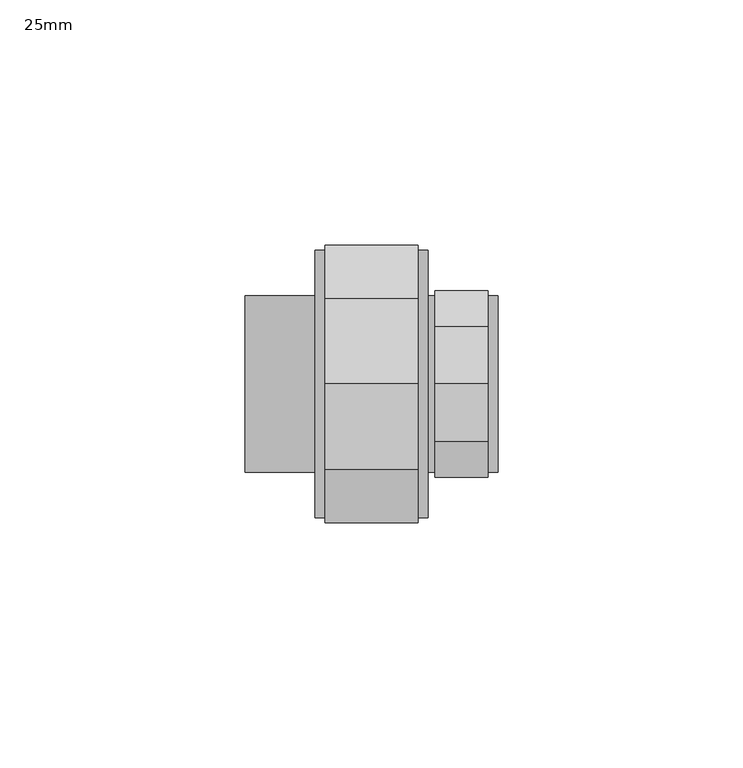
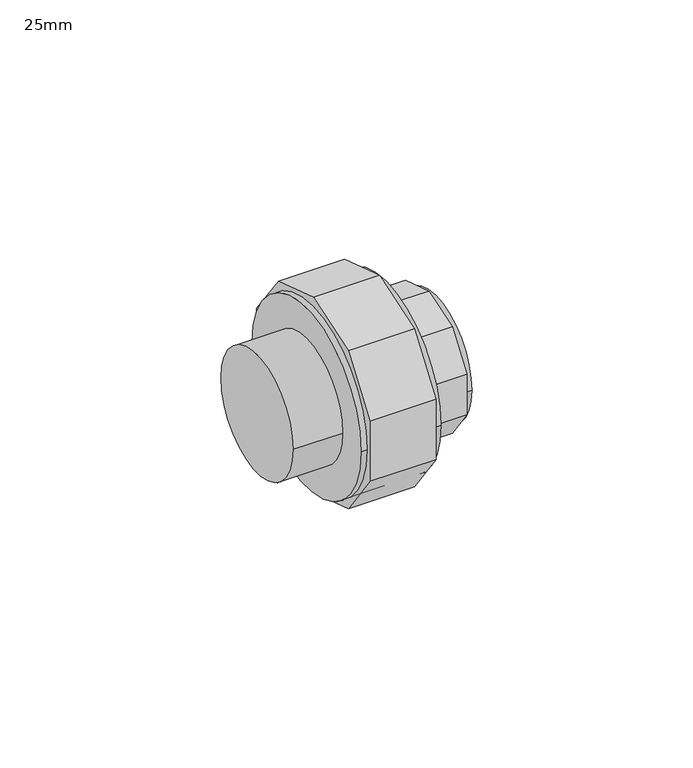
"""IFC4 building model written with IfcOpenShell, lengths in millimetres: pipe fitting geometry, PipeFitting_HTA_CPVC_3PieceUnions_CPVC : 25mm."""

from ifc_helpers import new_model, si_unit, point, frame, origin, origin_2d, place, context, project, spatial, polyline, circle_curve, trimmed, segment, composite_curve, outline, extrude, source, transform, mapped, element, save


def pipe_fitting_25mm_762900c0(model_context):
    return source(origin(), model_context, "Body", "SweptSolid", [
        extrude(outline(polyline([(11.7426458, 16.1623654), (19.0, 6.1734742), (19.0, -6.1734742), (11.7426458, -16.1623654), (0.0, -19.9777823), (-11.7426458, -16.1623654), (-19.0, -6.1734742), (-19.0, 6.1734742), (-11.7426458, 16.1623654), (0.0, 19.9777823), (11.7426458, 16.1623654)])), frame((13.0, 0.0, 0.0), z_axis=(1.0, 0.0, 0.0), x_axis=(0.0, 1.0, 0.0)), (0.0, 0.0, 1.0), 10.75),
        extrude(outline(composite_curve([segment(trimmed(circle_curve(origin_2d(), 18.0), [point((-18.0, 0.0))], [point((18.0, 0.0))], False, "CARTESIAN"), True, "CONTINUOUS"), segment(trimmed(circle_curve(origin_2d(), 18.0), [point((18.0, 0.0))], [point((-18.0, 0.0))], False, "CARTESIAN"), True, "CONTINUOUS")], self_intersect=False)), frame((6.75, 0.0, 0.0), z_axis=(1.0, 0.0, 0.0), x_axis=(0.0, 1.0, 0.0)), (0.0, 0.0, 1.0), 19.0),
        extrude(outline(composite_curve([segment(trimmed(circle_curve(origin_2d(), 18.0), [point((-18.0, 0.0))], [point((18.0, 0.0))], False, "CARTESIAN"), True, "CONTINUOUS"), segment(trimmed(circle_curve(origin_2d(), 18.0), [point((18.0, 0.0))], [point((-18.0, 0.0))], False, "CARTESIAN"), True, "CONTINUOUS")], self_intersect=False)), frame((-25.75, 0.0, 0.0), z_axis=(1.0, 0.0, 0.0), x_axis=(0.0, 1.0, 0.0)), (0.0, 0.0, 1.0), 14.25),
        extrude(outline(polyline([(17.4594602, 24.0308853), (28.25, 9.1789814), (28.25, -9.1789814), (17.4594602, -24.0308853), (0.0, -29.7038078), (-17.4594602, -24.0308853), (-28.25, -9.1789814), (-28.25, 9.1789814), (-17.4594602, 24.0308853), (0.0, 29.7038078), (17.4594602, 24.0308853)])), frame((-9.5, 0.0, 0.0), z_axis=(1.0, 0.0, 0.0), x_axis=(0.0, 1.0, 0.0)), (0.0, 0.0, 1.0), 19.0),
        extrude(outline(composite_curve([segment(trimmed(circle_curve(origin_2d(), 27.25), [point((-27.25, 0.0))], [point((27.25, 0.0))], False, "CARTESIAN"), True, "CONTINUOUS"), segment(trimmed(circle_curve(origin_2d(), 27.25), [point((27.25, 0.0))], [point((-27.25, 0.0))], False, "CARTESIAN"), True, "CONTINUOUS")], self_intersect=False)), frame((-11.5, 0.0, 0.0), z_axis=(1.0, 0.0, 0.0), x_axis=(0.0, 1.0, 0.0)), (0.0, 0.0, 1.0), 23.0),
    ])


if __name__ == "__main__":
    model = new_model("IFC4")
    model_context = context("Model", 3, world=origin())
    ifc_project = project(units=[si_unit("LENGTHUNIT", "METRE", prefix="MILLI")], contexts=[model_context])
    site = spatial("IfcSite", under=ifc_project)
    building = spatial("IfcBuilding", under=site)
    placement = place(None, origin())
    pipe_fitting_25mm_shape = pipe_fitting_25mm_762900c0(model_context)
    element("IfcPipeFitting", 1, ObjectType="PipeFitting_HTA_CPVC_3PieceUnions_CPVC : 25mm", at=placement, inside=building, context=model_context, shape_type="MappedRepresentation", body=[
        mapped(pipe_fitting_25mm_shape, transform((0.0, 0.0, 0.0), x_axis=(1.0, 0.0, 0.0), y_axis=(0.0, 1.0, 0.0), z_axis=(0.0, 0.0, 1.0))),
    ])
    save(model, "model.ifc")
